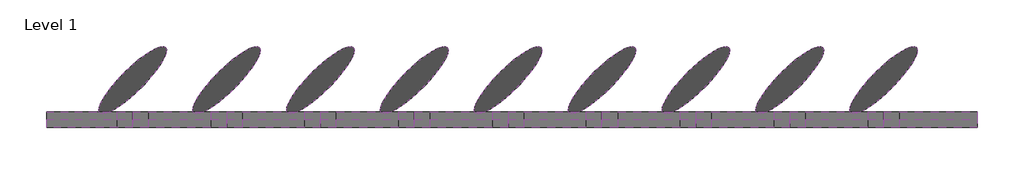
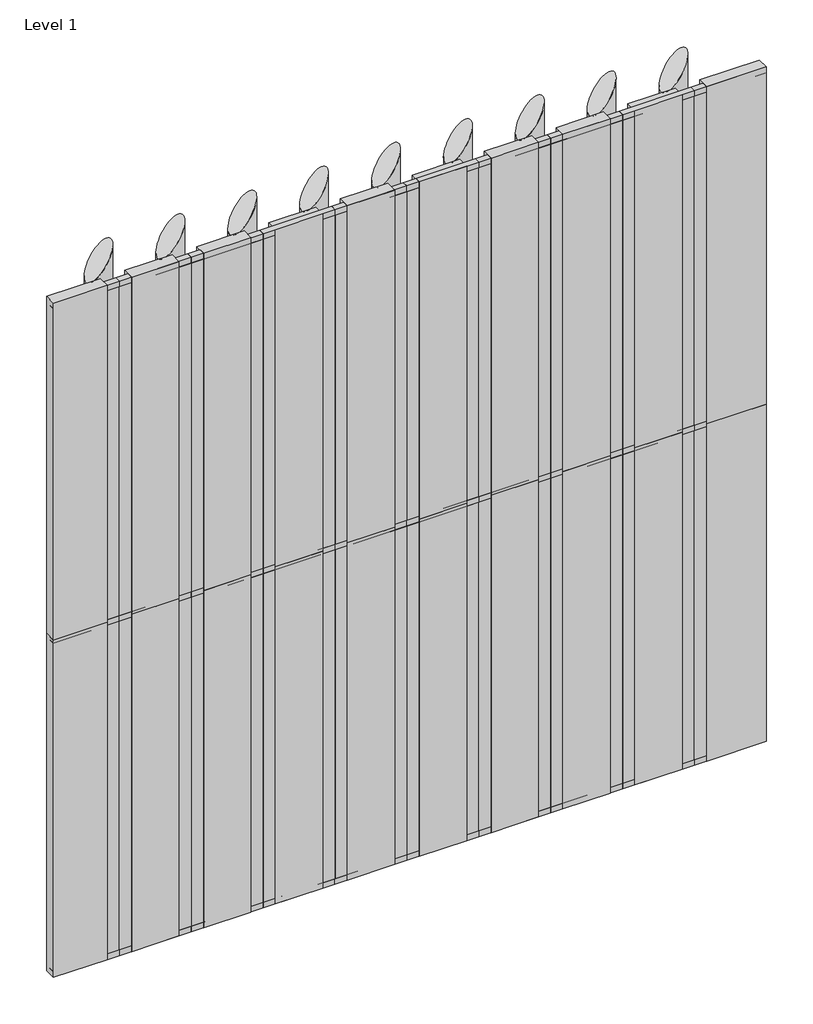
# One storey: 48 members, 40 plates.
"""IFC4 building model written with IfcOpenShell, lengths in millimetres."""

import ifcopenshell
import ifcopenshell.guid

model = None  # the IFC model being written
_history = None  # IfcOwnerHistory: only IFC2X3 demands one
_inside = {}  # id of a spatial element -> (the spatial element, [elements in it])
_under = {}  # id of a project, library or spatial element -> (it, [spatial elements below it])
_declared = {}  # id of a project -> (the project, [libraries it declares])
_typed = {}  # id of a type object -> (the type object, [elements of that type])
_made_of = {}  # id of a material, layer set ... -> (it, [elements and type objects made of it])


def new_model(schema):
    """Start an empty IFC model of exactly this schema.

    Asked for "IFC4X3", IfcOpenShell would pick the latest addendum, in which some entities
    have other attributes; the version numbers below select the first issue.
    IFC2X3 requires an IfcOwnerHistory on every rooted entity: one is made here for all.
    """
    global model, _history
    if schema == "IFC4X3":
        model = ifcopenshell.file(schema_version=(4, 3, 0, 0))
    else:
        model = ifcopenshell.file(schema=schema)
    _inside.clear()
    _under.clear()
    _declared.clear()
    _typed.clear()
    _made_of.clear()
    _history = None
    if model.schema == "IFC2X3":
        org = make("IfcOrganization", Name="unknown")
        user = make(
            "IfcPersonAndOrganization",
            ThePerson=make("IfcPerson", FamilyName="unknown"),
            TheOrganization=org,
        )
        app = make(
            "IfcApplication",
            ApplicationDeveloper=org,
            Version="unknown",
            ApplicationFullName="unknown",
            ApplicationIdentifier="unknown",
        )
        _history = make(
            "IfcOwnerHistory",
            OwningUser=user,
            OwningApplication=app,
            ChangeAction="ADDED",
            CreationDate=0,
        )
    return model


def make(cls, **values):
    """One entity of the class cls with the attributes given. An attribute that is None is left unset."""
    return model.create_entity(
        cls, **{name: value for name, value in values.items() if value is not None}
    )


def rooted(cls, **values):
    """An entity with a GlobalId (a new one), such as an element, a storey or a relation."""
    return make(cls, GlobalId=ifcopenshell.guid.new(), OwnerHistory=_history, **values)


def si_unit(unit_type, name, prefix=None):
    """IfcSIUnit, for example si_unit("LENGTHUNIT", "METRE", prefix="MILLI")."""
    return make("IfcSIUnit", UnitType=unit_type, Prefix=prefix, Name=name)


def assignment(units):
    """IfcUnitAssignment: the units of a project."""
    return None if units is None else make("IfcUnitAssignment", Units=units)


def point(xyz):
    """IfcCartesianPoint."""
    return None if xyz is None else make("IfcCartesianPoint", Coordinates=xyz)


def direction(xyz):
    """IfcDirection."""
    return None if xyz is None else make("IfcDirection", DirectionRatios=xyz)


def frame(location, z_axis=None, x_axis=None):
    """IfcAxis2Placement3D, a coordinate frame: its origin and axes. An axis left out is left unset."""
    return make(
        "IfcAxis2Placement3D",
        Location=point(location),
        Axis=direction(z_axis),
        RefDirection=direction(x_axis),
    )


def origin():
    """The frame at (0, 0, 0) with its axes left unset."""
    return frame((0.0, 0.0, 0.0))


def origin_with_axes():
    """The frame at (0, 0, 0) with the z axis (0, 0, 1) and the x axis (1, 0, 0) written out."""
    return frame((0.0, 0.0, 0.0), z_axis=(0.0, 0.0, 1.0), x_axis=(1.0, 0.0, 0.0))


def place(relative_to, where):
    """IfcLocalPlacement: puts the frame where relative to a parent placement (None: the world)."""
    return make(
        "IfcLocalPlacement", PlacementRelTo=relative_to, RelativePlacement=where
    )


def context(
    kind, dimensions, precision=None, world=None, true_north=None, identifier=None
):
    """IfcGeometricRepresentationContext, for example the 3D "Model" context."""
    return make(
        "IfcGeometricRepresentationContext",
        ContextIdentifier=identifier,
        ContextType=kind,
        CoordinateSpaceDimension=dimensions,
        Precision=precision,
        WorldCoordinateSystem=world,
        TrueNorth=true_north,
    )


def project(units=None, contexts=None):
    """IfcProject with its units and contexts."""
    return rooted(
        "IfcProject",
        Name="project",
        RepresentationContexts=contexts,
        UnitsInContext=assignment(units),
    )


def spatial(cls, under=None, at=None, **own):
    """A site, building, storey or space (cls), placed at a placement, below another one or the project."""
    s = rooted(cls, ObjectPlacement=at, **own)
    if under is not None:
        _under.setdefault(under.id(), (under, []))[1].append(s)
    return s


def polyline(points):
    """IfcPolyline through the points."""
    return make("IfcPolyline", Points=[point(p) for p in points])


def ellipse_curve(where, semi_axis1, semi_axis2):
    """IfcEllipse in the frame where."""
    return make(
        "IfcEllipse", Position=where, SemiAxis1=semi_axis1, SemiAxis2=semi_axis2
    )


def trimmed(basis, trim1, trim2, sense, master):
    """IfcTrimmedCurve: the piece of a basis curve between two trims."""
    return make(
        "IfcTrimmedCurve",
        BasisCurve=basis,
        Trim1=trim1,
        Trim2=trim2,
        SenseAgreement=sense,
        MasterRepresentation=master,
    )


def outline(outer, holes=None, kind="AREA"):
    """IfcArbitraryClosedProfileDef: a profile drawn as a closed curve; with holes, ...WithVoids."""
    if holes is None:
        return make("IfcArbitraryClosedProfileDef", ProfileType=kind, OuterCurve=outer)
    return make(
        "IfcArbitraryProfileDefWithVoids",
        ProfileType=kind,
        OuterCurve=outer,
        InnerCurves=holes,
    )


def extrude(swept, where, along, depth):
    """IfcExtrudedAreaSolid: the profile swept, set in the frame where, extruded along a direction by depth."""
    return make(
        "IfcExtrudedAreaSolid",
        SweptArea=swept,
        Position=where,
        ExtrudedDirection=direction(along),
        Depth=depth,
    )


def shape(context_of_items, identifier, shape_type, items):
    """IfcShapeRepresentation: the items that make up one representation, for example the "Body"."""
    return make(
        "IfcShapeRepresentation",
        ContextOfItems=context_of_items,
        RepresentationIdentifier=identifier,
        RepresentationType=shape_type,
        Items=items,
    )


def source(mapping_origin, context_of_items, identifier, shape_type, items):
    """IfcRepresentationMap: a shape defined once, which mapped items show again and again."""
    return make(
        "IfcRepresentationMap",
        MappingOrigin=mapping_origin,
        MappedRepresentation=shape(context_of_items, identifier, shape_type, items),
    )


def transform(
    local_origin,
    x_axis=None,
    y_axis=None,
    z_axis=None,
    scale=None,
    scale2=None,
    scale3=None,
    uniform=True,
):
    """IfcCartesianTransformationOperator3D, or its non-uniform kind. x_axis, y_axis, z_axis: its Axis1, 2, 3."""
    if uniform:
        return make(
            "IfcCartesianTransformationOperator3D",
            Axis1=direction(x_axis),
            Axis2=direction(y_axis),
            LocalOrigin=point(local_origin),
            Scale=scale,
            Axis3=direction(z_axis),
        )
    return make(
        "IfcCartesianTransformationOperator3DnonUniform",
        Axis1=direction(x_axis),
        Axis2=direction(y_axis),
        LocalOrigin=point(local_origin),
        Scale=scale,
        Axis3=direction(z_axis),
        Scale2=scale2,
        Scale3=scale3,
    )


def mapped(mapping_source, mapping_target):
    """IfcMappedItem: shows the shape of a source again, moved by a transform."""
    return make(
        "IfcMappedItem", MappingSource=mapping_source, MappingTarget=mapping_target
    )


def made_of(thing, what):
    """Note that an element or type object is made of a material, layer set ...; save() writes the relation."""
    if what is not None:
        _made_of.setdefault(what.id(), (what, []))[1].append(thing)
    return thing


def element(
    cls,
    number,
    at=None,
    inside=None,
    cuts=None,
    type_object=None,
    material=None,
    context=None,
    identifier="Body",
    shape_type=None,
    held_by="IfcProductDefinitionShape",
    body=None,
    shapes=None,
    **own,
):
    """One element of the class cls, such as IfcWall. Its Tag is "e" and its number.

    at: its placement. inside: the storey or other place that contains it. cuts: it is an
    opening in that element (IfcRelVoidsElement). A single representation is given by context,
    identifier, shape_type and body (its items); several are given by shapes. held_by: the class
    of the entity that holds the representations. save() writes the other relations.
    """
    e = rooted(cls, Tag="e%d" % number, ObjectPlacement=at, **own)
    if body is not None:
        shapes = [shape(context, identifier, shape_type, body)]
    if shapes is not None:
        e.Representation = make(held_by, Representations=shapes)
    if inside is not None:
        _inside.setdefault(inside.id(), (inside, []))[1].append(e)
    if cuts is not None:
        rooted(
            "IfcRelVoidsElement", RelatingBuildingElement=cuts, RelatedOpeningElement=e
        )
    if type_object is not None:
        _typed.setdefault(type_object.id(), (type_object, []))[1].append(e)
    return made_of(e, material)


def aggregate(whole, parts):
    """IfcRelAggregates: a whole, such as a stair, and the parts it consists of."""
    return rooted("IfcRelAggregates", RelatingObject=whole, RelatedObjects=parts)


def save(model, path):
    """Write the relations noted so far, then the file.

    IfcRelAggregates (storeys below a building ...), IfcRelContainedInSpatialStructure (elements
    in a storey), IfcRelDefinesByType, IfcRelAssociatesMaterial and IfcRelDeclares: one each for
    every whole, place, type object, material and project.
    """
    for whole, parts in _under.values():
        aggregate(whole, parts)
    for where, things in _inside.values():
        rooted(
            "IfcRelContainedInSpatialStructure",
            RelatedElements=things,
            RelatingStructure=where,
        )
    for kind, things in _typed.values():
        rooted("IfcRelDefinesByType", RelatedObjects=things, RelatingType=kind)
    for what, things in _made_of.values():
        rooted("IfcRelAssociatesMaterial", RelatedObjects=things, RelatingMaterial=what)
    for by, libraries in _declared.values():
        rooted("IfcRelDeclares", RelatingContext=by, RelatedDefinitions=libraries)
    model.write(path)


def plane_surface(at):
    """IfcPlane: the flat surface through the origin of the frame at, square to its z axis."""
    return make("IfcPlane", Position=at)


def extruded_surface(curve, direction_of_extrusion, depth):
    """IfcSurfaceOfLinearExtrusion: the curve pushed along a direction by depth."""
    return make(
        "IfcSurfaceOfLinearExtrusion",
        SweptCurve=make("IfcArbitraryOpenProfileDef", ProfileType="CURVE", Curve=curve),
        ExtrudedDirection=direction(direction_of_extrusion),
        Depth=depth,
    )


def advanced_brep(points, edges, surfaces, faces):
    """IfcAdvancedBrep: a solid bounded by faces that lie on surfaces and meet in shared edges.

    An edge is (start, end): straight between two places in points (the first is 0);
    or (start, end, curve); or (start, end, curve, False) where it runs against its curve.
    A face is (place in surfaces, loops), or (place, loops, False) where it looks against
    its surface's normal. A loop lists edges by number (the first is 1), with a minus sign
    where the edge is run from its end to its start. The first loop is the outer one.
    """
    corners = [point(p) for p in points]
    vertices = [make("IfcVertexPoint", VertexGeometry=c) for c in corners]
    made = []
    for start, end, *more in edges:
        made.append(
            make(
                "IfcEdgeCurve",
                EdgeStart=vertices[start],
                EdgeEnd=vertices[end],
                EdgeGeometry=more[0] if more else make("IfcPolyline", Points=[corners[start], corners[end]]),
                SameSense=more[1] if len(more) > 1 else True,
            )
        )
    hull = []
    for where, loops, *sense in faces:
        bounds = []
        for j, loop in enumerate(loops):
            ring = [make("IfcOrientedEdge", EdgeElement=made[abs(k) - 1], Orientation=k > 0) for k in loop]
            bounds.append(
                make(
                    "IfcFaceOuterBound" if j == 0 else "IfcFaceBound",
                    Bound=make("IfcEdgeLoop", EdgeList=ring),
                    Orientation=True,
                )
            )
        hull.append(make("IfcAdvancedFace", Bounds=bounds, FaceSurface=surfaces[where], SameSense=sense[0] if sense else True))
    return make("IfcAdvancedBrep", Outer=make("IfcClosedShell", CfsFaces=hull))


def rectangular_mullion_f0bcd2d9(model_context):
    return source(origin(), model_context, "Body", "AdvancedBrep", [
        advanced_brep(
        [(212.1320344, 42.8679656, 0.0), (-212.1320344, 467.1320344, 0.0), (212.1320344, 42.8679656, -3000.0), (-212.1320344, 467.1320344, -3000.0)],
        [
            (0, 1, ellipse_curve(frame((0.0, 255.0, 0.0), z_axis=(0.0, 0.0, 1.0000000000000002), x_axis=(-0.7071067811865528, 0.7071067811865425, 0.0)), 300.0, 73.0)),
            (1, 0, ellipse_curve(frame((0.0, 255.0, 0.0), z_axis=(0.0, 0.0, 1.0000000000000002), x_axis=(-0.7071067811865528, 0.7071067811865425, 0.0)), 300.0, 73.0)),
            (2, 3, ellipse_curve(frame((0.0, 255.0, -3000.0), z_axis=(0.0, 0.0, -1.0000000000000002), x_axis=(-0.7071067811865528, 0.7071067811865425, 0.0)), 300.0, 73.0)),
            (3, 2, ellipse_curve(frame((0.0, 255.0, -3000.0), z_axis=(0.0, 0.0, -1.0000000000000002), x_axis=(-0.7071067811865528, 0.7071067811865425, 0.0)), 300.0, 73.0)),
            (0, 2),
            (3, 1),
        ],
        [
            plane_surface(frame((0.0, -513.0422376, 0.0), z_axis=(0.0, 0.0, 1.0), x_axis=(-1.0, 0.0, 0.0))),
            plane_surface(frame((0.0, -513.0422376, -3000.0), z_axis=(0.0, 0.0, -1.0), x_axis=(-1.0, 0.0, 0.0))),
            extruded_surface(trimmed(ellipse_curve(frame((0.0, 255.0, -3000.0), z_axis=(0.0, 0.0, 1.0000000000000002), x_axis=(-0.7071067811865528, 0.7071067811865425, 0.0)), 300.0, 73.0), [point((212.1320344, 42.8679656, -3000.0))], [point((-212.1320344, 467.1320344, -3000.0))], True, "CARTESIAN"), (0.0, 0.0, 3000.0), 3000.0),
            extruded_surface(trimmed(ellipse_curve(frame((0.0, 255.0, -3000.0), z_axis=(0.0, 0.0, 1.0000000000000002), x_axis=(-0.7071067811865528, 0.7071067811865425, 0.0)), 300.0, 73.0), [point((-212.1320344, 467.1320344, -3000.0))], [point((212.1320344, 42.8679656, -3000.0))], True, "CARTESIAN"), (0.0, 0.0, 3000.0), 3000.0),
        ],
        [
            (0, [[1, 2]]),
            (1, [[3, 4]]),
            (2, [[-1, 5, -4, 6]]),
            (3, [[-2, -6, -3, -5]]),
        ],
    ),
    ])


def rectangular_mullion_d8201ae5(model_context):
    return source(origin(), model_context, "Body", "SweptSolid", [
        extrude(outline(polyline([(0.0, 1.0), (0.0, -49.0), (-50.0, -49.0), (-50.0, 1.0), (0.0, 1.0)])), frame((0.0, 0.0, -555.0), z_axis=(0.0, 0.0, 1.0), x_axis=(1.0, 0.0, 0.0)), (0.0, 0.0, 1.0), 555.0),
    ])


def rectangular_mullion_6e5ba28d(model_context):
    return source(origin(), model_context, "Body", "SweptSolid", [
        extrude(outline(polyline([(-50.0, 1.0), (0.0, 1.0), (0.0, -49.0), (-50.0, -49.0), (-50.0, 1.0)])), frame((0.0, 0.0, -605.0), z_axis=(0.0, 0.0, 1.0), x_axis=(1.0, 0.0, 0.0)), (0.0, 0.0, 1.0), 605.0),
    ])


def rectangular_mullion_1c998518(model_context):
    return source(origin(), model_context, "Body", "SweptSolid", [
        extrude(outline(polyline([(0.0, 1.0), (0.0, -49.0), (-50.0, -49.0), (-50.0, 1.0), (0.0, 1.0)])), frame((0.0, 0.0, -605.0), z_axis=(0.0, 0.0, 1.0), x_axis=(1.0, 0.0, 0.0)), (0.0, 0.0, 1.0), 605.0),
    ])


def rectangular_mullion_4d0e3d15(model_context):
    return source(origin(), model_context, "Body", "SweptSolid", [
        extrude(outline(polyline([(-50.0, 1.0), (0.0, 1.0), (0.0, -49.0), (-50.0, -49.0), (-50.0, 1.0)])), frame((0.0, 0.0, -555.0), z_axis=(0.0, 0.0, 1.0), x_axis=(1.0, 0.0, 0.0)), (0.0, 0.0, 1.0), 555.0),
    ])


def rectangular_mullion_543a06af(model_context):
    return source(origin(), model_context, "Body", "SweptSolid", [
        extrude(outline(polyline([(25.0, 1.0), (25.0, -49.0), (-25.0, -49.0), (-25.0, 1.0), (25.0, 1.0)])), frame((0.0, 0.0, -605.0), z_axis=(0.0, 0.0, 1.0), x_axis=(1.0, 0.0, 0.0)), (0.0, 0.0, 1.0), 605.0),
    ])


def rectangular_mullion_fcffcf6d(model_context):
    return source(origin(), model_context, "Body", "SweptSolid", [
        extrude(outline(polyline([(25.0, 1.0), (25.0, -49.0), (-25.0, -49.0), (-25.0, 1.0), (25.0, 1.0)])), frame((0.0, 0.0, -555.0), z_axis=(0.0, 0.0, 1.0), x_axis=(1.0, 0.0, 0.0)), (0.0, 0.0, 1.0), 555.0),
    ])


def empty_system_panel_empty_ae084ab8(model_context):
    return source(origin(), model_context, "Body", "SweptSolid", [
        extrude(outline(polyline([(250.881205, -50.0), (-250.881205, -50.0), (-250.881205, 50.0), (250.881205, 50.0), (250.881205, -50.0)])), origin_with_axes(), (0.0, 0.0, 1.0), 3000.0),
    ])


def empty_system_panel_empty_62476c0a(model_context):
    return source(origin(), model_context, "Body", "SweptSolid", [
        extrude(outline(polyline([(199.2624099, -50.0), (-199.2624099, -50.0), (-199.2624099, 50.0), (199.2624099, 50.0), (199.2624099, -50.0)])), origin_with_axes(), (0.0, 0.0, 1.0), 3000.0),
    ])


def empty_system_panel_empty_ae2229f6(model_context):
    return source(origin(), model_context, "Body", "SweptSolid", [
        extrude(outline(polyline([(225.881205, -50.0), (-225.881205, -50.0), (-225.881205, 50.0), (225.881205, 50.0), (225.881205, -50.0)])), origin_with_axes(), (0.0, 0.0, 1.0), 3000.0),
    ])


def empty_system_panel_empty_b3d00ce9(model_context):
    return source(origin(), model_context, "Body", "SweptSolid", [
        extrude(outline(polyline([(302.5, -50.0), (-302.5, -50.0), (-302.5, 50.0), (302.5, 50.0), (302.5, -50.0)])), origin_with_axes(), (0.0, 0.0, 1.0), 2925.0),
    ])


def empty_system_panel_empty_c1b1d027(model_context):
    return source(origin(), model_context, "Body", "SweptSolid", [
        extrude(outline(polyline([(277.5, -50.0), (-277.5, -50.0), (-277.5, 50.0), (277.5, 50.0), (277.5, -50.0)])), origin_with_axes(), (0.0, 0.0, 1.0), 2925.0),
    ])


model = new_model("IFC4")

# Units and contexts
model_context = context("Model", 3, world=origin())
ifc_project = project(units=[si_unit("LENGTHUNIT", "METRE", prefix="MILLI")], contexts=[model_context])

# Site, building, storey
site = spatial("IfcSite", under=ifc_project)
building = spatial("IfcBuilding", under=site)
storey = spatial("IfcBuildingStorey", under=building, Name="Level 1", Elevation=0.0)

# Members
placement = place(None, origin())
rectangular_mullion_shape = rectangular_mullion_f0bcd2d9(model_context)
element("IfcMember", 1, ObjectType="Rectangular Mullion : RSen_21_CWM_blade - wing 600 - 45° perforated_gen_duco projects", at=placement, inside=storey, context=model_context, shape_type="MappedRepresentation", body=[
    mapped(rectangular_mullion_shape, transform((5395.0, 3000.0, 0.0), x_axis=(-1.0, 0.0, 0.0), y_axis=(0.0, 1.0, 0.0), z_axis=(0.0, 0.0, -1.0))),
])
element("IfcMember", 2, ObjectType="Rectangular Mullion : RSen_21_CWM_blade - wing 600 - 45° perforated_gen_duco projects", at=placement, inside=storey, context=model_context, shape_type="MappedRepresentation", body=[
    mapped(rectangular_mullion_shape, transform((4790.0, 3000.0, 0.0), x_axis=(-1.0, 0.0, 0.0), y_axis=(0.0, 1.0, 0.0), z_axis=(0.0, 0.0, -1.0))),
])
element("IfcMember", 3, ObjectType="Rectangular Mullion : RSen_21_CWM_blade - wing 600 - 45° perforated_gen_duco projects", at=placement, inside=storey, context=model_context, shape_type="MappedRepresentation", body=[
    mapped(rectangular_mullion_shape, transform((4185.0, 3000.0, 0.0), x_axis=(-1.0, 0.0, 0.0), y_axis=(0.0, 1.0, 0.0), z_axis=(0.0, 0.0, -1.0))),
])
element("IfcMember", 4, ObjectType="Rectangular Mullion : RSen_21_CWM_blade - wing 600 - 45° perforated_gen_duco projects", at=placement, inside=storey, context=model_context, shape_type="MappedRepresentation", body=[
    mapped(rectangular_mullion_shape, transform((3580.0, 3000.0, 0.0), x_axis=(-1.0, 0.0, 0.0), y_axis=(0.0, 1.0, 0.0), z_axis=(0.0, 0.0, -1.0))),
])
element("IfcMember", 5, ObjectType="Rectangular Mullion : RSen_21_CWM_blade - wing 600 - 45° perforated_gen_duco projects", at=placement, inside=storey, context=model_context, shape_type="MappedRepresentation", body=[
    mapped(rectangular_mullion_shape, transform((2975.0, 3000.0, 0.0), x_axis=(-1.0, 0.0, 0.0), y_axis=(0.0, 1.0, 0.0), z_axis=(0.0, 0.0, -1.0))),
])
element("IfcMember", 6, ObjectType="Rectangular Mullion : RSen_21_CWM_blade - wing 600 - 45° perforated_gen_duco projects", at=placement, inside=storey, context=model_context, shape_type="MappedRepresentation", body=[
    mapped(rectangular_mullion_shape, transform((2370.0, 3000.0, 0.0), x_axis=(-1.0, 0.0, 0.0), y_axis=(0.0, 1.0, 0.0), z_axis=(0.0, 0.0, -1.0))),
])
element("IfcMember", 7, ObjectType="Rectangular Mullion : RSen_21_CWM_blade - wing 600 - 45° perforated_gen_duco projects", at=placement, inside=storey, context=model_context, shape_type="MappedRepresentation", body=[
    mapped(rectangular_mullion_shape, transform((1765.0, 3000.0, 0.0), x_axis=(-1.0, 0.0, 0.0), y_axis=(0.0, 1.0, 0.0), z_axis=(0.0, 0.0, -1.0))),
])
element("IfcMember", 8, ObjectType="Rectangular Mullion : RSen_21_CWM_blade - wing 600 - 45° perforated_gen_duco projects", at=placement, inside=storey, context=model_context, shape_type="MappedRepresentation", body=[
    mapped(rectangular_mullion_shape, transform((1160.0, 3000.0, 0.0), x_axis=(-1.0, 0.0, 0.0), y_axis=(0.0, 1.0, 0.0), z_axis=(0.0, 0.0, -1.0))),
])
element("IfcMember", 9, ObjectType="Rectangular Mullion : RSen_21_CWM_blade - wing 600 - 45° perforated_gen_duco projects", at=placement, inside=storey, context=model_context, shape_type="MappedRepresentation", body=[
    mapped(rectangular_mullion_shape, transform((555.0, 3000.0, 0.0), x_axis=(-1.0, 0.0, 0.0), y_axis=(0.0, 1.0, 0.0), z_axis=(0.0, 0.0, -1.0))),
])
element("IfcMember", 10, ObjectType="Rectangular Mullion : RSen_21_CWM_blade - wing 600 - 45° perforated_gen_duco projects", at=placement, inside=storey, context=model_context, shape_type="MappedRepresentation", body=[
    mapped(rectangular_mullion_shape, transform((5395.0, 3000.0, 3000.0), x_axis=(-1.0, 0.0, 0.0), y_axis=(0.0, 1.0, 0.0), z_axis=(0.0, 0.0, -1.0))),
])
element("IfcMember", 11, ObjectType="Rectangular Mullion : RSen_21_CWM_blade - wing 600 - 45° perforated_gen_duco projects", at=placement, inside=storey, context=model_context, shape_type="MappedRepresentation", body=[
    mapped(rectangular_mullion_shape, transform((4790.0, 3000.0, 3000.0), x_axis=(-1.0, 0.0, 0.0), y_axis=(0.0, 1.0, 0.0), z_axis=(0.0, 0.0, -1.0))),
])
element("IfcMember", 12, ObjectType="Rectangular Mullion : RSen_21_CWM_blade - wing 600 - 45° perforated_gen_duco projects", at=placement, inside=storey, context=model_context, shape_type="MappedRepresentation", body=[
    mapped(rectangular_mullion_shape, transform((4185.0, 3000.0, 3000.0), x_axis=(-1.0, 0.0, 0.0), y_axis=(0.0, 1.0, 0.0), z_axis=(0.0, 0.0, -1.0))),
])
element("IfcMember", 13, ObjectType="Rectangular Mullion : RSen_21_CWM_blade - wing 600 - 45° perforated_gen_duco projects", at=placement, inside=storey, context=model_context, shape_type="MappedRepresentation", body=[
    mapped(rectangular_mullion_shape, transform((3580.0, 3000.0, 3000.0), x_axis=(-1.0, 0.0, 0.0), y_axis=(0.0, 1.0, 0.0), z_axis=(0.0, 0.0, -1.0))),
])
element("IfcMember", 14, ObjectType="Rectangular Mullion : RSen_21_CWM_blade - wing 600 - 45° perforated_gen_duco projects", at=placement, inside=storey, context=model_context, shape_type="MappedRepresentation", body=[
    mapped(rectangular_mullion_shape, transform((2975.0, 3000.0, 3000.0), x_axis=(-1.0, 0.0, 0.0), y_axis=(0.0, 1.0, 0.0), z_axis=(0.0, 0.0, -1.0))),
])
element("IfcMember", 15, ObjectType="Rectangular Mullion : RSen_21_CWM_blade - wing 600 - 45° perforated_gen_duco projects", at=placement, inside=storey, context=model_context, shape_type="MappedRepresentation", body=[
    mapped(rectangular_mullion_shape, transform((2370.0, 3000.0, 3000.0), x_axis=(-1.0, 0.0, 0.0), y_axis=(0.0, 1.0, 0.0), z_axis=(0.0, 0.0, -1.0))),
])
element("IfcMember", 16, ObjectType="Rectangular Mullion : RSen_21_CWM_blade - wing 600 - 45° perforated_gen_duco projects", at=placement, inside=storey, context=model_context, shape_type="MappedRepresentation", body=[
    mapped(rectangular_mullion_shape, transform((1765.0, 3000.0, 3000.0), x_axis=(-1.0, 0.0, 0.0), y_axis=(0.0, 1.0, 0.0), z_axis=(0.0, 0.0, -1.0))),
])
element("IfcMember", 17, ObjectType="Rectangular Mullion : RSen_21_CWM_blade - wing 600 - 45° perforated_gen_duco projects", at=placement, inside=storey, context=model_context, shape_type="MappedRepresentation", body=[
    mapped(rectangular_mullion_shape, transform((1160.0, 3000.0, 3000.0), x_axis=(-1.0, 0.0, 0.0), y_axis=(0.0, 1.0, 0.0), z_axis=(0.0, 0.0, -1.0))),
])
element("IfcMember", 18, ObjectType="Rectangular Mullion : RSen_21_CWM_blade - wing 600 - 45° perforated_gen_duco projects", at=placement, inside=storey, context=model_context, shape_type="MappedRepresentation", body=[
    mapped(rectangular_mullion_shape, transform((555.0, 3000.0, 3000.0), x_axis=(-1.0, 0.0, 0.0), y_axis=(0.0, 1.0, 0.0), z_axis=(0.0, 0.0, -1.0))),
])
rectangular_mullion_2_shape = rectangular_mullion_d8201ae5(model_context)
element("IfcMember", 19, ObjectType="Rectangular Mullion : RSen_21_CWM_support profile 50x50 - left_gen_duco projects", at=placement, inside=storey, context=model_context, shape_type="MappedRepresentation", body=[
    mapped(rectangular_mullion_2_shape, transform((0.0, 3000.0, 6000.0), x_axis=(0.0, 0.0, 1.0), y_axis=(0.0, 1.0, 0.0), z_axis=(-1.0, 0.0, 0.0))),
])
rectangular_mullion_3_shape = rectangular_mullion_6e5ba28d(model_context)
element("IfcMember", 20, ObjectType="Rectangular Mullion : RSen_21_CWM_support profile 50x50 - right_gen_duco projects", at=placement, inside=storey, context=model_context, shape_type="MappedRepresentation", body=[
    mapped(rectangular_mullion_3_shape, transform((6000.0, 3000.0, 0.0), x_axis=(0.0, 0.0, -1.0), y_axis=(0.0, 1.0, 0.0), z_axis=(1.0, 0.0, 0.0))),
])
rectangular_mullion_4_shape = rectangular_mullion_1c998518(model_context)
element("IfcMember", 21, ObjectType="Rectangular Mullion : RSen_21_CWM_support profile 50x50 - left_gen_duco projects", at=placement, inside=storey, context=model_context, shape_type="MappedRepresentation", body=[
    mapped(rectangular_mullion_4_shape, transform((5395.0, 3000.0, 6000.0), x_axis=(0.0, 0.0, 1.0), y_axis=(0.0, 1.0, 0.0), z_axis=(-1.0, 0.0, 0.0))),
])
element("IfcMember", 22, ObjectType="Rectangular Mullion : RSen_21_CWM_support profile 50x50 - left_gen_duco projects", at=placement, inside=storey, context=model_context, shape_type="MappedRepresentation", body=[
    mapped(rectangular_mullion_4_shape, transform((4790.0, 3000.0, 6000.0), x_axis=(0.0, 0.0, 1.0), y_axis=(0.0, 1.0, 0.0), z_axis=(-1.0, 0.0, 0.0))),
])
element("IfcMember", 23, ObjectType="Rectangular Mullion : RSen_21_CWM_support profile 50x50 - left_gen_duco projects", at=placement, inside=storey, context=model_context, shape_type="MappedRepresentation", body=[
    mapped(rectangular_mullion_4_shape, transform((4185.0, 3000.0, 6000.0), x_axis=(0.0, 0.0, 1.0), y_axis=(0.0, 1.0, 0.0), z_axis=(-1.0, 0.0, 0.0))),
])
element("IfcMember", 24, ObjectType="Rectangular Mullion : RSen_21_CWM_support profile 50x50 - left_gen_duco projects", at=placement, inside=storey, context=model_context, shape_type="MappedRepresentation", body=[
    mapped(rectangular_mullion_4_shape, transform((3580.0, 3000.0, 6000.0), x_axis=(0.0, 0.0, 1.0), y_axis=(0.0, 1.0, 0.0), z_axis=(-1.0, 0.0, 0.0))),
])
element("IfcMember", 25, ObjectType="Rectangular Mullion : RSen_21_CWM_support profile 50x50 - left_gen_duco projects", at=placement, inside=storey, context=model_context, shape_type="MappedRepresentation", body=[
    mapped(rectangular_mullion_4_shape, transform((2975.0, 3000.0, 6000.0), x_axis=(0.0, 0.0, 1.0), y_axis=(0.0, 1.0, 0.0), z_axis=(-1.0, 0.0, 0.0))),
])
element("IfcMember", 26, ObjectType="Rectangular Mullion : RSen_21_CWM_support profile 50x50 - left_gen_duco projects", at=placement, inside=storey, context=model_context, shape_type="MappedRepresentation", body=[
    mapped(rectangular_mullion_4_shape, transform((2370.0, 3000.0, 6000.0), x_axis=(0.0, 0.0, 1.0), y_axis=(0.0, 1.0, 0.0), z_axis=(-1.0, 0.0, 0.0))),
])
element("IfcMember", 27, ObjectType="Rectangular Mullion : RSen_21_CWM_support profile 50x50 - left_gen_duco projects", at=placement, inside=storey, context=model_context, shape_type="MappedRepresentation", body=[
    mapped(rectangular_mullion_4_shape, transform((1765.0, 3000.0, 6000.0), x_axis=(0.0, 0.0, 1.0), y_axis=(0.0, 1.0, 0.0), z_axis=(-1.0, 0.0, 0.0))),
])
element("IfcMember", 28, ObjectType="Rectangular Mullion : RSen_21_CWM_support profile 50x50 - left_gen_duco projects", at=placement, inside=storey, context=model_context, shape_type="MappedRepresentation", body=[
    mapped(rectangular_mullion_4_shape, transform((1160.0, 3000.0, 6000.0), x_axis=(0.0, 0.0, 1.0), y_axis=(0.0, 1.0, 0.0), z_axis=(-1.0, 0.0, 0.0))),
])
element("IfcMember", 29, ObjectType="Rectangular Mullion : RSen_21_CWM_support profile 50x50 - left_gen_duco projects", at=placement, inside=storey, context=model_context, shape_type="MappedRepresentation", body=[
    mapped(rectangular_mullion_4_shape, transform((555.0, 3000.0, 6000.0), x_axis=(0.0, 0.0, 1.0), y_axis=(0.0, 1.0, 0.0), z_axis=(-1.0, 0.0, 0.0))),
])
element("IfcMember", 30, ObjectType="Rectangular Mullion : RSen_21_CWM_support profile 50x50 - right_gen_duco projects", at=placement, inside=storey, context=model_context, shape_type="MappedRepresentation", body=[
    mapped(rectangular_mullion_3_shape, transform((5395.0, 3000.0, 0.0), x_axis=(0.0, 0.0, -1.0), y_axis=(0.0, 1.0, 0.0), z_axis=(1.0, 0.0, 0.0))),
])
element("IfcMember", 31, ObjectType="Rectangular Mullion : RSen_21_CWM_support profile 50x50 - right_gen_duco projects", at=placement, inside=storey, context=model_context, shape_type="MappedRepresentation", body=[
    mapped(rectangular_mullion_3_shape, transform((4790.0, 3000.0, 0.0), x_axis=(0.0, 0.0, -1.0), y_axis=(0.0, 1.0, 0.0), z_axis=(1.0, 0.0, 0.0))),
])
element("IfcMember", 32, ObjectType="Rectangular Mullion : RSen_21_CWM_support profile 50x50 - right_gen_duco projects", at=placement, inside=storey, context=model_context, shape_type="MappedRepresentation", body=[
    mapped(rectangular_mullion_3_shape, transform((4185.0, 3000.0, 0.0), x_axis=(0.0, 0.0, -1.0), y_axis=(0.0, 1.0, 0.0), z_axis=(1.0, 0.0, 0.0))),
])
element("IfcMember", 33, ObjectType="Rectangular Mullion : RSen_21_CWM_support profile 50x50 - right_gen_duco projects", at=placement, inside=storey, context=model_context, shape_type="MappedRepresentation", body=[
    mapped(rectangular_mullion_3_shape, transform((3580.0, 3000.0, 0.0), x_axis=(0.0, 0.0, -1.0), y_axis=(0.0, 1.0, 0.0), z_axis=(1.0, 0.0, 0.0))),
])
element("IfcMember", 34, ObjectType="Rectangular Mullion : RSen_21_CWM_support profile 50x50 - right_gen_duco projects", at=placement, inside=storey, context=model_context, shape_type="MappedRepresentation", body=[
    mapped(rectangular_mullion_3_shape, transform((2975.0, 3000.0, 0.0), x_axis=(0.0, 0.0, -1.0), y_axis=(0.0, 1.0, 0.0), z_axis=(1.0, 0.0, 0.0))),
])
element("IfcMember", 35, ObjectType="Rectangular Mullion : RSen_21_CWM_support profile 50x50 - right_gen_duco projects", at=placement, inside=storey, context=model_context, shape_type="MappedRepresentation", body=[
    mapped(rectangular_mullion_3_shape, transform((2370.0, 3000.0, 0.0), x_axis=(0.0, 0.0, -1.0), y_axis=(0.0, 1.0, 0.0), z_axis=(1.0, 0.0, 0.0))),
])
element("IfcMember", 36, ObjectType="Rectangular Mullion : RSen_21_CWM_support profile 50x50 - right_gen_duco projects", at=placement, inside=storey, context=model_context, shape_type="MappedRepresentation", body=[
    mapped(rectangular_mullion_3_shape, transform((1765.0, 3000.0, 0.0), x_axis=(0.0, 0.0, -1.0), y_axis=(0.0, 1.0, 0.0), z_axis=(1.0, 0.0, 0.0))),
])
element("IfcMember", 37, ObjectType="Rectangular Mullion : RSen_21_CWM_support profile 50x50 - right_gen_duco projects", at=placement, inside=storey, context=model_context, shape_type="MappedRepresentation", body=[
    mapped(rectangular_mullion_3_shape, transform((1160.0, 3000.0, 0.0), x_axis=(0.0, 0.0, -1.0), y_axis=(0.0, 1.0, 0.0), z_axis=(1.0, 0.0, 0.0))),
])
rectangular_mullion_5_shape = rectangular_mullion_4d0e3d15(model_context)
element("IfcMember", 38, ObjectType="Rectangular Mullion : RSen_21_CWM_support profile 50x50 - right_gen_duco projects", at=placement, inside=storey, context=model_context, shape_type="MappedRepresentation", body=[
    mapped(rectangular_mullion_5_shape, transform((555.0, 3000.0, 0.0), x_axis=(0.0, 0.0, -1.0), y_axis=(0.0, 1.0, 0.0), z_axis=(1.0, 0.0, 0.0))),
])
rectangular_mullion_6_shape = rectangular_mullion_543a06af(model_context)
element("IfcMember", 39, ObjectType="Rectangular Mullion : RSen_21_CWM_support profile 50x50_gen_duco projects", at=placement, inside=storey, context=model_context, shape_type="MappedRepresentation", body=[
    mapped(rectangular_mullion_6_shape, transform((5395.0, 3000.0, 3000.0), x_axis=(0.0, 0.0, 1.0), y_axis=(0.0, 1.0, 0.0), z_axis=(-1.0, 0.0, 0.0))),
])
element("IfcMember", 40, ObjectType="Rectangular Mullion : RSen_21_CWM_support profile 50x50_gen_duco projects", at=placement, inside=storey, context=model_context, shape_type="MappedRepresentation", body=[
    mapped(rectangular_mullion_6_shape, transform((4790.0, 3000.0, 3000.0), x_axis=(0.0, 0.0, 1.0), y_axis=(0.0, 1.0, 0.0), z_axis=(-1.0, 0.0, 0.0))),
])
element("IfcMember", 41, ObjectType="Rectangular Mullion : RSen_21_CWM_support profile 50x50_gen_duco projects", at=placement, inside=storey, context=model_context, shape_type="MappedRepresentation", body=[
    mapped(rectangular_mullion_6_shape, transform((4185.0, 3000.0, 3000.0), x_axis=(0.0, 0.0, 1.0), y_axis=(0.0, 1.0, 0.0), z_axis=(-1.0, 0.0, 0.0))),
])
element("IfcMember", 42, ObjectType="Rectangular Mullion : RSen_21_CWM_support profile 50x50_gen_duco projects", at=placement, inside=storey, context=model_context, shape_type="MappedRepresentation", body=[
    mapped(rectangular_mullion_6_shape, transform((3580.0, 3000.0, 3000.0), x_axis=(0.0, 0.0, 1.0), y_axis=(0.0, 1.0, 0.0), z_axis=(-1.0, 0.0, 0.0))),
])
element("IfcMember", 43, ObjectType="Rectangular Mullion : RSen_21_CWM_support profile 50x50_gen_duco projects", at=placement, inside=storey, context=model_context, shape_type="MappedRepresentation", body=[
    mapped(rectangular_mullion_6_shape, transform((2975.0, 3000.0, 3000.0), x_axis=(0.0, 0.0, 1.0), y_axis=(0.0, 1.0, 0.0), z_axis=(-1.0, 0.0, 0.0))),
])
element("IfcMember", 44, ObjectType="Rectangular Mullion : RSen_21_CWM_support profile 50x50_gen_duco projects", at=placement, inside=storey, context=model_context, shape_type="MappedRepresentation", body=[
    mapped(rectangular_mullion_6_shape, transform((2370.0, 3000.0, 3000.0), x_axis=(0.0, 0.0, 1.0), y_axis=(0.0, 1.0, 0.0), z_axis=(-1.0, 0.0, 0.0))),
])
element("IfcMember", 45, ObjectType="Rectangular Mullion : RSen_21_CWM_support profile 50x50_gen_duco projects", at=placement, inside=storey, context=model_context, shape_type="MappedRepresentation", body=[
    mapped(rectangular_mullion_6_shape, transform((1765.0, 3000.0, 3000.0), x_axis=(0.0, 0.0, 1.0), y_axis=(0.0, 1.0, 0.0), z_axis=(-1.0, 0.0, 0.0))),
])
element("IfcMember", 46, ObjectType="Rectangular Mullion : RSen_21_CWM_support profile 50x50_gen_duco projects", at=placement, inside=storey, context=model_context, shape_type="MappedRepresentation", body=[
    mapped(rectangular_mullion_6_shape, transform((1160.0, 3000.0, 3000.0), x_axis=(0.0, 0.0, 1.0), y_axis=(0.0, 1.0, 0.0), z_axis=(-1.0, 0.0, 0.0))),
])
element("IfcMember", 47, ObjectType="Rectangular Mullion : RSen_21_CWM_support profile 50x50_gen_duco projects", at=placement, inside=storey, context=model_context, shape_type="MappedRepresentation", body=[
    mapped(rectangular_mullion_6_shape, transform((555.0, 3000.0, 3000.0), x_axis=(0.0, 0.0, 1.0), y_axis=(0.0, 1.0, 0.0), z_axis=(-1.0, 0.0, 0.0))),
])
rectangular_mullion_7_shape = rectangular_mullion_fcffcf6d(model_context)
element("IfcMember", 48, ObjectType="Rectangular Mullion : RSen_21_CWM_support profile 50x50_gen_duco projects", at=placement, inside=storey, context=model_context, shape_type="MappedRepresentation", body=[
    mapped(rectangular_mullion_7_shape, transform((0.0, 3000.0, 3000.0), x_axis=(0.0, 0.0, 1.0), y_axis=(0.0, 1.0, 0.0), z_axis=(-1.0, 0.0, 0.0))),
])

# Plates
empty_system_panel_empty_shape = empty_system_panel_empty_ae084ab8(model_context)
element("IfcPlate", 49, ObjectType="Empty System Panel : Empty", at=placement, inside=storey, context=model_context, shape_type="MappedRepresentation", body=[
    mapped(empty_system_panel_empty_shape, transform((5749.118795, 3000.0, 0.0), x_axis=(-1.0, 0.0, 0.0), y_axis=(0.0, -1.0, 0.0), z_axis=(0.0, 0.0, 1.0))),
])
element("IfcPlate", 50, ObjectType="Empty System Panel : Empty", at=placement, inside=storey, context=model_context, shape_type="MappedRepresentation", body=[
    mapped(empty_system_panel_empty_shape, transform((5749.118795, 3000.0, 3000.0), x_axis=(-1.0, 0.0, 0.0), y_axis=(0.0, -1.0, 0.0), z_axis=(0.0, 0.0, 1.0))),
])
empty_system_panel_empty_2_shape = empty_system_panel_empty_62476c0a(model_context)
element("IfcPlate", 51, ObjectType="Empty System Panel : Empty", at=placement, inside=storey, context=model_context, shape_type="MappedRepresentation", body=[
    mapped(empty_system_panel_empty_2_shape, transform((5092.5, 3000.0, 0.0), x_axis=(-1.0, 0.0, 0.0), y_axis=(0.0, -1.0, 0.0), z_axis=(0.0, 0.0, 1.0))),
])
element("IfcPlate", 52, ObjectType="Empty System Panel : Empty", at=placement, inside=storey, context=model_context, shape_type="MappedRepresentation", body=[
    mapped(empty_system_panel_empty_2_shape, transform((4487.5, 3000.0, 0.0), x_axis=(-1.0, 0.0, 0.0), y_axis=(0.0, -1.0, 0.0), z_axis=(0.0, 0.0, 1.0))),
])
element("IfcPlate", 53, ObjectType="Empty System Panel : Empty", at=placement, inside=storey, context=model_context, shape_type="MappedRepresentation", body=[
    mapped(empty_system_panel_empty_2_shape, transform((3882.5, 3000.0, 0.0), x_axis=(-1.0, 0.0, 0.0), y_axis=(0.0, -1.0, 0.0), z_axis=(0.0, 0.0, 1.0))),
])
element("IfcPlate", 54, ObjectType="Empty System Panel : Empty", at=placement, inside=storey, context=model_context, shape_type="MappedRepresentation", body=[
    mapped(empty_system_panel_empty_2_shape, transform((3277.5, 3000.0, 0.0), x_axis=(-1.0, 0.0, 0.0), y_axis=(0.0, -1.0, 0.0), z_axis=(0.0, 0.0, 1.0))),
])
element("IfcPlate", 55, ObjectType="Empty System Panel : Empty", at=placement, inside=storey, context=model_context, shape_type="MappedRepresentation", body=[
    mapped(empty_system_panel_empty_2_shape, transform((2672.5, 3000.0, 0.0), x_axis=(-1.0, 0.0, 0.0), y_axis=(0.0, -1.0, 0.0), z_axis=(0.0, 0.0, 1.0))),
])
element("IfcPlate", 56, ObjectType="Empty System Panel : Empty", at=placement, inside=storey, context=model_context, shape_type="MappedRepresentation", body=[
    mapped(empty_system_panel_empty_2_shape, transform((2067.5, 3000.0, 0.0), x_axis=(-1.0, 0.0, 0.0), y_axis=(0.0, -1.0, 0.0), z_axis=(0.0, 0.0, 1.0))),
])
element("IfcPlate", 57, ObjectType="Empty System Panel : Empty", at=placement, inside=storey, context=model_context, shape_type="MappedRepresentation", body=[
    mapped(empty_system_panel_empty_2_shape, transform((1462.5, 3000.0, 0.0), x_axis=(-1.0, 0.0, 0.0), y_axis=(0.0, -1.0, 0.0), z_axis=(0.0, 0.0, 1.0))),
])
element("IfcPlate", 58, ObjectType="Empty System Panel : Empty", at=placement, inside=storey, context=model_context, shape_type="MappedRepresentation", body=[
    mapped(empty_system_panel_empty_2_shape, transform((857.5, 3000.0, 0.0), x_axis=(-1.0, 0.0, 0.0), y_axis=(0.0, -1.0, 0.0), z_axis=(0.0, 0.0, 1.0))),
])
element("IfcPlate", 59, ObjectType="Empty System Panel : Empty", at=placement, inside=storey, context=model_context, shape_type="MappedRepresentation", body=[
    mapped(empty_system_panel_empty_2_shape, transform((5092.5, 3000.0, 3000.0), x_axis=(-1.0, 0.0, 0.0), y_axis=(0.0, -1.0, 0.0), z_axis=(0.0, 0.0, 1.0))),
])
element("IfcPlate", 60, ObjectType="Empty System Panel : Empty", at=placement, inside=storey, context=model_context, shape_type="MappedRepresentation", body=[
    mapped(empty_system_panel_empty_2_shape, transform((4487.5, 3000.0, 3000.0), x_axis=(-1.0, 0.0, 0.0), y_axis=(0.0, -1.0, 0.0), z_axis=(0.0, 0.0, 1.0))),
])
element("IfcPlate", 61, ObjectType="Empty System Panel : Empty", at=placement, inside=storey, context=model_context, shape_type="MappedRepresentation", body=[
    mapped(empty_system_panel_empty_2_shape, transform((3882.5, 3000.0, 3000.0), x_axis=(-1.0, 0.0, 0.0), y_axis=(0.0, -1.0, 0.0), z_axis=(0.0, 0.0, 1.0))),
])
element("IfcPlate", 62, ObjectType="Empty System Panel : Empty", at=placement, inside=storey, context=model_context, shape_type="MappedRepresentation", body=[
    mapped(empty_system_panel_empty_2_shape, transform((3277.5, 3000.0, 3000.0), x_axis=(-1.0, 0.0, 0.0), y_axis=(0.0, -1.0, 0.0), z_axis=(0.0, 0.0, 1.0))),
])
element("IfcPlate", 63, ObjectType="Empty System Panel : Empty", at=placement, inside=storey, context=model_context, shape_type="MappedRepresentation", body=[
    mapped(empty_system_panel_empty_2_shape, transform((2672.5, 3000.0, 3000.0), x_axis=(-1.0, 0.0, 0.0), y_axis=(0.0, -1.0, 0.0), z_axis=(0.0, 0.0, 1.0))),
])
element("IfcPlate", 64, ObjectType="Empty System Panel : Empty", at=placement, inside=storey, context=model_context, shape_type="MappedRepresentation", body=[
    mapped(empty_system_panel_empty_2_shape, transform((2067.5, 3000.0, 3000.0), x_axis=(-1.0, 0.0, 0.0), y_axis=(0.0, -1.0, 0.0), z_axis=(0.0, 0.0, 1.0))),
])
element("IfcPlate", 65, ObjectType="Empty System Panel : Empty", at=placement, inside=storey, context=model_context, shape_type="MappedRepresentation", body=[
    mapped(empty_system_panel_empty_2_shape, transform((1462.5, 3000.0, 3000.0), x_axis=(-1.0, 0.0, 0.0), y_axis=(0.0, -1.0, 0.0), z_axis=(0.0, 0.0, 1.0))),
])
element("IfcPlate", 66, ObjectType="Empty System Panel : Empty", at=placement, inside=storey, context=model_context, shape_type="MappedRepresentation", body=[
    mapped(empty_system_panel_empty_2_shape, transform((857.5, 3000.0, 3000.0), x_axis=(-1.0, 0.0, 0.0), y_axis=(0.0, -1.0, 0.0), z_axis=(0.0, 0.0, 1.0))),
])
empty_system_panel_empty_3_shape = empty_system_panel_empty_ae2229f6(model_context)
element("IfcPlate", 67, ObjectType="Empty System Panel : Empty", at=placement, inside=storey, context=model_context, shape_type="MappedRepresentation", body=[
    mapped(empty_system_panel_empty_3_shape, transform((225.881205, 3000.0, 0.0), x_axis=(-1.0, 0.0, 0.0), y_axis=(0.0, -1.0, 0.0), z_axis=(0.0, 0.0, 1.0))),
])
element("IfcPlate", 68, ObjectType="Empty System Panel : Empty", at=placement, inside=storey, context=model_context, shape_type="MappedRepresentation", body=[
    mapped(empty_system_panel_empty_3_shape, transform((225.881205, 3000.0, 3000.0), x_axis=(-1.0, 0.0, 0.0), y_axis=(0.0, -1.0, 0.0), z_axis=(0.0, 0.0, 1.0))),
])
empty_system_panel_empty_4_shape = empty_system_panel_empty_b3d00ce9(model_context)
element("IfcPlate", 69, ObjectType="Empty System Panel : Empty", at=placement, inside=storey, context=model_context, shape_type="MappedRepresentation", body=[
    mapped(empty_system_panel_empty_4_shape, transform((5697.5, 3000.0, 50.0), x_axis=(-1.0, 0.0, 0.0), y_axis=(0.0, -1.0, 0.0), z_axis=(0.0, 0.0, 1.0))),
])
element("IfcPlate", 70, ObjectType="Empty System Panel : Empty", at=placement, inside=storey, context=model_context, shape_type="MappedRepresentation", body=[
    mapped(empty_system_panel_empty_4_shape, transform((5092.5, 3000.0, 50.0), x_axis=(-1.0, 0.0, 0.0), y_axis=(0.0, -1.0, 0.0), z_axis=(0.0, 0.0, 1.0))),
])
element("IfcPlate", 71, ObjectType="Empty System Panel : Empty", at=placement, inside=storey, context=model_context, shape_type="MappedRepresentation", body=[
    mapped(empty_system_panel_empty_4_shape, transform((4487.5, 3000.0, 50.0), x_axis=(-1.0, 0.0, 0.0), y_axis=(0.0, -1.0, 0.0), z_axis=(0.0, 0.0, 1.0))),
])
element("IfcPlate", 72, ObjectType="Empty System Panel : Empty", at=placement, inside=storey, context=model_context, shape_type="MappedRepresentation", body=[
    mapped(empty_system_panel_empty_4_shape, transform((3882.5, 3000.0, 50.0), x_axis=(-1.0, 0.0, 0.0), y_axis=(0.0, -1.0, 0.0), z_axis=(0.0, 0.0, 1.0))),
])
element("IfcPlate", 73, ObjectType="Empty System Panel : Empty", at=placement, inside=storey, context=model_context, shape_type="MappedRepresentation", body=[
    mapped(empty_system_panel_empty_4_shape, transform((3277.5, 3000.0, 50.0), x_axis=(-1.0, 0.0, 0.0), y_axis=(0.0, -1.0, 0.0), z_axis=(0.0, 0.0, 1.0))),
])
element("IfcPlate", 74, ObjectType="Empty System Panel : Empty", at=placement, inside=storey, context=model_context, shape_type="MappedRepresentation", body=[
    mapped(empty_system_panel_empty_4_shape, transform((2672.5, 3000.0, 50.0), x_axis=(-1.0, 0.0, 0.0), y_axis=(0.0, -1.0, 0.0), z_axis=(0.0, 0.0, 1.0))),
])
element("IfcPlate", 75, ObjectType="Empty System Panel : Empty", at=placement, inside=storey, context=model_context, shape_type="MappedRepresentation", body=[
    mapped(empty_system_panel_empty_4_shape, transform((2067.5, 3000.0, 50.0), x_axis=(-1.0, 0.0, 0.0), y_axis=(0.0, -1.0, 0.0), z_axis=(0.0, 0.0, 1.0))),
])
element("IfcPlate", 76, ObjectType="Empty System Panel : Empty", at=placement, inside=storey, context=model_context, shape_type="MappedRepresentation", body=[
    mapped(empty_system_panel_empty_4_shape, transform((1462.5, 3000.0, 50.0), x_axis=(-1.0, 0.0, 0.0), y_axis=(0.0, -1.0, 0.0), z_axis=(0.0, 0.0, 1.0))),
])
element("IfcPlate", 77, ObjectType="Empty System Panel : Empty", at=placement, inside=storey, context=model_context, shape_type="MappedRepresentation", body=[
    mapped(empty_system_panel_empty_4_shape, transform((857.5, 3000.0, 50.0), x_axis=(-1.0, 0.0, 0.0), y_axis=(0.0, -1.0, 0.0), z_axis=(0.0, 0.0, 1.0))),
])
element("IfcPlate", 78, ObjectType="Empty System Panel : Empty", at=placement, inside=storey, context=model_context, shape_type="MappedRepresentation", body=[
    mapped(empty_system_panel_empty_4_shape, transform((5697.5, 3000.0, 3025.0), x_axis=(-1.0, 0.0, 0.0), y_axis=(0.0, -1.0, 0.0), z_axis=(0.0, 0.0, 1.0))),
])
element("IfcPlate", 79, ObjectType="Empty System Panel : Empty", at=placement, inside=storey, context=model_context, shape_type="MappedRepresentation", body=[
    mapped(empty_system_panel_empty_4_shape, transform((5092.5, 3000.0, 3025.0), x_axis=(-1.0, 0.0, 0.0), y_axis=(0.0, -1.0, 0.0), z_axis=(0.0, 0.0, 1.0))),
])
element("IfcPlate", 80, ObjectType="Empty System Panel : Empty", at=placement, inside=storey, context=model_context, shape_type="MappedRepresentation", body=[
    mapped(empty_system_panel_empty_4_shape, transform((4487.5, 3000.0, 3025.0), x_axis=(-1.0, 0.0, 0.0), y_axis=(0.0, -1.0, 0.0), z_axis=(0.0, 0.0, 1.0))),
])
element("IfcPlate", 81, ObjectType="Empty System Panel : Empty", at=placement, inside=storey, context=model_context, shape_type="MappedRepresentation", body=[
    mapped(empty_system_panel_empty_4_shape, transform((3882.5, 3000.0, 3025.0), x_axis=(-1.0, 0.0, 0.0), y_axis=(0.0, -1.0, 0.0), z_axis=(0.0, 0.0, 1.0))),
])
element("IfcPlate", 82, ObjectType="Empty System Panel : Empty", at=placement, inside=storey, context=model_context, shape_type="MappedRepresentation", body=[
    mapped(empty_system_panel_empty_4_shape, transform((3277.5, 3000.0, 3025.0), x_axis=(-1.0, 0.0, 0.0), y_axis=(0.0, -1.0, 0.0), z_axis=(0.0, 0.0, 1.0))),
])
element("IfcPlate", 83, ObjectType="Empty System Panel : Empty", at=placement, inside=storey, context=model_context, shape_type="MappedRepresentation", body=[
    mapped(empty_system_panel_empty_4_shape, transform((2672.5, 3000.0, 3025.0), x_axis=(-1.0, 0.0, 0.0), y_axis=(0.0, -1.0, 0.0), z_axis=(0.0, 0.0, 1.0))),
])
element("IfcPlate", 84, ObjectType="Empty System Panel : Empty", at=placement, inside=storey, context=model_context, shape_type="MappedRepresentation", body=[
    mapped(empty_system_panel_empty_4_shape, transform((2067.5, 3000.0, 3025.0), x_axis=(-1.0, 0.0, 0.0), y_axis=(0.0, -1.0, 0.0), z_axis=(0.0, 0.0, 1.0))),
])
element("IfcPlate", 85, ObjectType="Empty System Panel : Empty", at=placement, inside=storey, context=model_context, shape_type="MappedRepresentation", body=[
    mapped(empty_system_panel_empty_4_shape, transform((1462.5, 3000.0, 3025.0), x_axis=(-1.0, 0.0, 0.0), y_axis=(0.0, -1.0, 0.0), z_axis=(0.0, 0.0, 1.0))),
])
element("IfcPlate", 86, ObjectType="Empty System Panel : Empty", at=placement, inside=storey, context=model_context, shape_type="MappedRepresentation", body=[
    mapped(empty_system_panel_empty_4_shape, transform((857.5, 3000.0, 3025.0), x_axis=(-1.0, 0.0, 0.0), y_axis=(0.0, -1.0, 0.0), z_axis=(0.0, 0.0, 1.0))),
])
empty_system_panel_empty_5_shape = empty_system_panel_empty_c1b1d027(model_context)
element("IfcPlate", 87, ObjectType="Empty System Panel : Empty", at=placement, inside=storey, context=model_context, shape_type="MappedRepresentation", body=[
    mapped(empty_system_panel_empty_5_shape, transform((277.5, 3000.0, 50.0), x_axis=(-1.0, 0.0, 0.0), y_axis=(0.0, -1.0, 0.0), z_axis=(0.0, 0.0, 1.0))),
])
element("IfcPlate", 88, ObjectType="Empty System Panel : Empty", at=placement, inside=storey, context=model_context, shape_type="MappedRepresentation", body=[
    mapped(empty_system_panel_empty_5_shape, transform((277.5, 3000.0, 3025.0), x_axis=(-1.0, 0.0, 0.0), y_axis=(0.0, -1.0, 0.0), z_axis=(0.0, 0.0, 1.0))),
])

save(model, "model.ifc")
